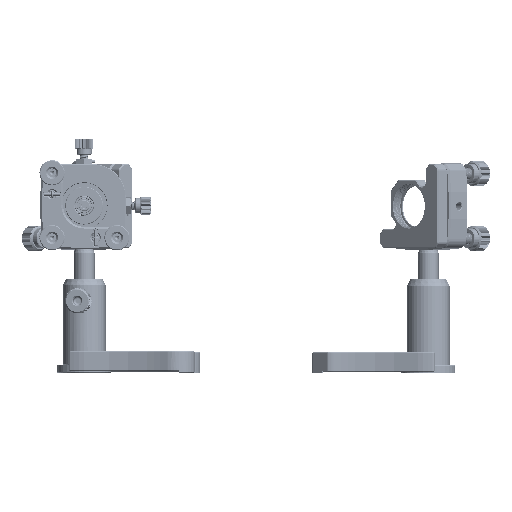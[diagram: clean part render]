
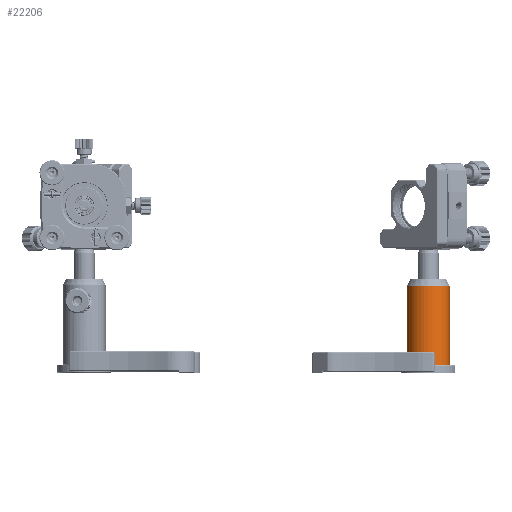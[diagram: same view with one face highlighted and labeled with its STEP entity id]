
A CAD part, top view. The second image highlights one B-rep face of the part: STEP entity #22206.
In plain terms, the highlighted cylindrical face has radius 12.5 mm (diameter 25 mm), a partial arc.
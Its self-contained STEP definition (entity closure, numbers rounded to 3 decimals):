
#14989=CARTESIAN_POINT('',(0.,46.,0.));
#14990=DIRECTION('',(0.,-1.,0.));
#14991=DIRECTION('',(1.,0.,0.));
#14992=AXIS2_PLACEMENT_3D('',#14989,#14990,#14991);
#14994=CARTESIAN_POINT('',(0.,46.,0.));
#14995=DIRECTION('',(0.,-1.,0.));
#14996=DIRECTION('',(0.,0.,1.));
#14997=AXIS2_PLACEMENT_3D('',#14994,#14995,#14996);
#14999=DIRECTION('',(0.,1.,0.));
#15000=VECTOR('',#14999,45.7);
#15001=CARTESIAN_POINT('',(-12.5,0.3,0.));
#15002=LINE('',#15001,#15000);
#15007=CARTESIAN_POINT('',(0.,0.3,0.));
#15008=DIRECTION('',(0.,1.,0.));
#15009=DIRECTION('',(-1.,0.,0.));
#15010=AXIS2_PLACEMENT_3D('',#15007,#15008,#15009);
#15012=CARTESIAN_POINT('',(0.,0.3,0.));
#15013=DIRECTION('',(0.,1.,0.));
#15014=DIRECTION('',(0.,0.,1.));
#15015=AXIS2_PLACEMENT_3D('',#15012,#15013,#15014);
#15061=DIRECTION('',(0.,1.,0.));
#15062=VECTOR('',#15061,45.7);
#15063=CARTESIAN_POINT('',(12.5,0.3,0.));
#15064=LINE('',#15063,#15062);
#19028=CARTESIAN_POINT('',(-12.5,46.,0.));
#19029=VERTEX_POINT('',#19028);
#19032=CARTESIAN_POINT('',(12.5,46.,0.));
#19033=VERTEX_POINT('',#19032);
#19034=CARTESIAN_POINT('',(0.,46.,12.5));
#19035=VERTEX_POINT('',#19034);
#19036=CARTESIAN_POINT('',(0.,0.3,12.5));
#19037=CARTESIAN_POINT('',(12.5,0.3,0.));
#19038=VERTEX_POINT('',#19036);
#19039=VERTEX_POINT('',#19037);
#19040=CARTESIAN_POINT('',(-12.5,0.3,0.));
#19041=VERTEX_POINT('',#19040);
#22189=CARTESIAN_POINT('',(0.,0.,0.));
#22190=DIRECTION('',(0.,1.,0.));
#22191=DIRECTION('',(1.,0.,0.));
#22192=AXIS2_PLACEMENT_3D('',#22189,#22190,#22191);
#22193=CYLINDRICAL_SURFACE('',#22192,12.5);
#22195=ORIENTED_EDGE('',*,*,#22194,.F.);
#22197=ORIENTED_EDGE('',*,*,#22196,.F.);
#22199=ORIENTED_EDGE('',*,*,#22198,.T.);
#22200=ORIENTED_EDGE('',*,*,#22183,.F.);
#22201=ORIENTED_EDGE('',*,*,#22181,.F.);
#22203=ORIENTED_EDGE('',*,*,#22202,.F.);
#22204=EDGE_LOOP('',(#22195,#22197,#22199,#22200,#22201,#22203));
#22205=FACE_OUTER_BOUND('',#22204,.F.);
#22206=ADVANCED_FACE('',(#22205),#22193,.T.);
#14993=CIRCLE('',#14992,12.5);
#14998=CIRCLE('',#14997,12.5);
#15011=CIRCLE('',#15010,12.5);
#15016=CIRCLE('',#15015,12.5);
#22181=EDGE_CURVE('',#19033,#19035,#14993,.T.);
#22183=EDGE_CURVE('',#19035,#19029,#14998,.T.);
#22194=EDGE_CURVE('',#19038,#19039,#15016,.T.);
#22196=EDGE_CURVE('',#19041,#19038,#15011,.T.);
#22198=EDGE_CURVE('',#19041,#19029,#15002,.T.);
#22202=EDGE_CURVE('',#19039,#19033,#15064,.T.);
